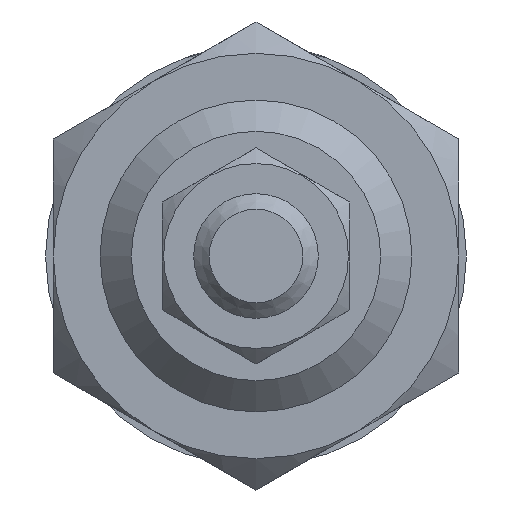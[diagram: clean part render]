
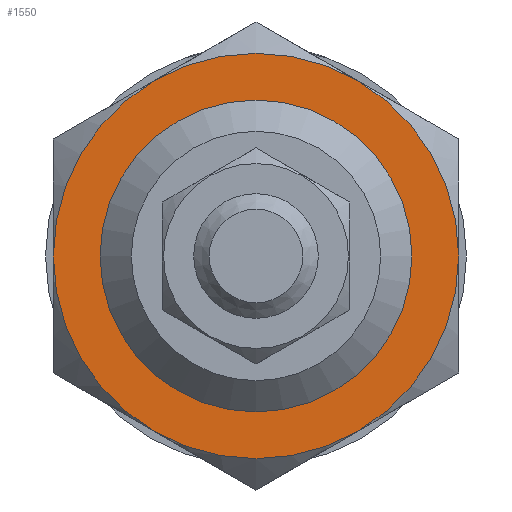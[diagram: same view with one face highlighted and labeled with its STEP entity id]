
A CAD part, front view. The second image highlights one B-rep face of the part: STEP entity #1550.
In plain terms, the highlighted planar face has unit normal (0, -1, 0).
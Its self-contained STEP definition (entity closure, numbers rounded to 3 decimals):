
#175=PLANE('',#1693);
#220=CIRCLE('',#1694,9.688);
#221=CIRCLE('',#1695,13.);
#222=CIRCLE('',#1696,13.);
#223=CIRCLE('',#1697,13.);
#224=CIRCLE('',#1698,13.);
#225=CIRCLE('',#1699,13.);
#226=CIRCLE('',#1700,13.);
#415=ORIENTED_EDGE('',*,*,#585,.T.);
#416=ORIENTED_EDGE('',*,*,#586,.F.);
#417=ORIENTED_EDGE('',*,*,#587,.F.);
#418=ORIENTED_EDGE('',*,*,#588,.F.);
#419=ORIENTED_EDGE('',*,*,#589,.F.);
#420=ORIENTED_EDGE('',*,*,#590,.F.);
#421=ORIENTED_EDGE('',*,*,#591,.F.);
#585=EDGE_CURVE('',#687,#687,#220,.T.);
#586=EDGE_CURVE('',#669,#673,#221,.T.);
#587=EDGE_CURVE('',#665,#669,#222,.T.);
#588=EDGE_CURVE('',#685,#665,#223,.T.);
#589=EDGE_CURVE('',#681,#685,#224,.T.);
#590=EDGE_CURVE('',#677,#681,#225,.T.);
#591=EDGE_CURVE('',#673,#677,#226,.T.);
#665=VERTEX_POINT('',#2342);
#669=VERTEX_POINT('',#2360);
#673=VERTEX_POINT('',#2377);
#677=VERTEX_POINT('',#2395);
#681=VERTEX_POINT('',#2413);
#685=VERTEX_POINT('',#2429);
#687=VERTEX_POINT('',#2440);
#809=EDGE_LOOP('',(#415));
#810=EDGE_LOOP('',(#416,#417,#418,#419,#420,#421));
#927=FACE_BOUND('',#809,.T.);
#928=FACE_BOUND('',#810,.T.);
#1550=ADVANCED_FACE('',(#927,#928),#175,.F.);
#1693=AXIS2_PLACEMENT_3D('',#2438,#1960,#1961);
#1694=AXIS2_PLACEMENT_3D('',#2439,#1962,#1963);
#1695=AXIS2_PLACEMENT_3D('',#2441,#1964,#1965);
#1696=AXIS2_PLACEMENT_3D('',#2442,#1966,#1967);
#1697=AXIS2_PLACEMENT_3D('',#2443,#1968,#1969);
#1698=AXIS2_PLACEMENT_3D('',#2444,#1970,#1971);
#1699=AXIS2_PLACEMENT_3D('',#2445,#1972,#1973);
#1700=AXIS2_PLACEMENT_3D('',#2446,#1974,#1975);
#1960=DIRECTION('',(0.,1.,0.));
#1961=DIRECTION('',(0.,0.,1.));
#1962=DIRECTION('',(0.,1.,0.));
#1963=DIRECTION('',(0.,0.,1.));
#1964=DIRECTION('',(0.,1.,0.));
#1965=DIRECTION('',(0.,0.,1.));
#1966=DIRECTION('',(0.,1.,0.));
#1967=DIRECTION('',(0.,0.,1.));
#1968=DIRECTION('',(0.,1.,0.));
#1969=DIRECTION('',(0.,0.,1.));
#1970=DIRECTION('',(0.,1.,0.));
#1971=DIRECTION('',(0.,0.,1.));
#1972=DIRECTION('',(0.,1.,0.));
#1973=DIRECTION('',(0.,0.,1.));
#1974=DIRECTION('',(0.,1.,0.));
#1975=DIRECTION('',(0.,0.,1.));
#2342=CARTESIAN_POINT('',(-6.5,-8.,11.258));
#2360=CARTESIAN_POINT('',(6.5,-8.,11.258));
#2377=CARTESIAN_POINT('',(13.,-8.,0.));
#2395=CARTESIAN_POINT('',(6.5,-8.,-11.258));
#2413=CARTESIAN_POINT('',(-6.5,-8.,-11.258));
#2429=CARTESIAN_POINT('',(-13.,-8.,0.));
#2438=CARTESIAN_POINT('',(0.,-8.,0.));
#2439=CARTESIAN_POINT('',(0.,-8.,0.));
#2440=CARTESIAN_POINT('',(0.,-8.,9.688));
#2441=CARTESIAN_POINT('',(0.,-8.,0.));
#2442=CARTESIAN_POINT('',(0.,-8.,0.));
#2443=CARTESIAN_POINT('',(0.,-8.,0.));
#2444=CARTESIAN_POINT('',(0.,-8.,0.));
#2445=CARTESIAN_POINT('',(0.,-8.,0.));
#2446=CARTESIAN_POINT('',(0.,-8.,0.));
